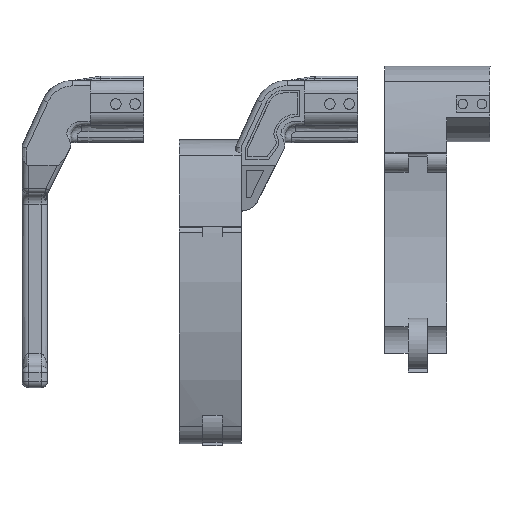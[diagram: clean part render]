
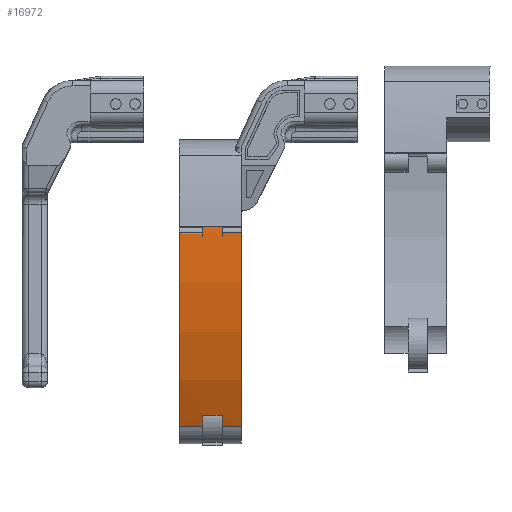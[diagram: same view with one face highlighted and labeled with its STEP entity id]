
A CAD part, top view. The second image highlights one B-rep face of the part: STEP entity #16972.
In plain terms, the highlighted cylindrical face has radius 180.483 mm (diameter 360.965 mm), a partial arc.
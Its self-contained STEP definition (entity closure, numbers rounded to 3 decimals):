
#1328=LINE('',#21114,#2999);
#1330=LINE('',#21120,#3001);
#1331=LINE('',#21124,#3002);
#1332=LINE('',#21128,#3003);
#1333=LINE('',#21129,#3004);
#1334=LINE('',#21131,#3005);
#1335=LINE('',#21135,#3006);
#1336=LINE('',#21139,#3007);
#2999=VECTOR('',#18322,9.);
#3001=VECTOR('',#18328,9.);
#3002=VECTOR('',#18331,9.);
#3003=VECTOR('',#18334,9.);
#3004=VECTOR('',#18335,9.);
#3005=VECTOR('',#18336,9.);
#3006=VECTOR('',#18339,9.);
#3007=VECTOR('',#18342,9.);
#4671=CYLINDRICAL_SURFACE('',#17752,180.483);
#4816=FACE_OUTER_BOUND('',#5540,.T.);
#5540=EDGE_LOOP('',(#11270,#11271,#11272,#11273,#11274,#11275,#11276,#11277,
#11278,#11279,#11280,#11281,#11282,#11283));
#6324=CIRCLE('',#17746,180.483);
#6329=CIRCLE('',#17753,180.483);
#6330=CIRCLE('',#17754,180.483);
#6331=CIRCLE('',#17755,180.483);
#6332=CIRCLE('',#17756,180.483);
#6333=CIRCLE('',#17757,180.483);
#6486=VERTEX_POINT('',#21102);
#6488=VERTEX_POINT('',#21105);
#6491=VERTEX_POINT('',#21113);
#6493=VERTEX_POINT('',#21119);
#6494=VERTEX_POINT('',#21121);
#6495=VERTEX_POINT('',#21123);
#6496=VERTEX_POINT('',#21125);
#6497=VERTEX_POINT('',#21127);
#6498=VERTEX_POINT('',#21130);
#6499=VERTEX_POINT('',#21132);
#6500=VERTEX_POINT('',#21134);
#6501=VERTEX_POINT('',#21136);
#6502=VERTEX_POINT('',#21138);
#8536=EDGE_CURVE('',#6488,#6486,#6324,.T.);
#8540=EDGE_CURVE('',#6491,#6488,#1328,.T.);
#8543=EDGE_CURVE('',#6493,#6486,#1330,.T.);
#8544=EDGE_CURVE('',#6493,#6494,#6329,.T.);
#8545=EDGE_CURVE('',#6495,#6494,#1331,.T.);
#8546=EDGE_CURVE('',#6495,#6496,#6330,.T.);
#8547=EDGE_CURVE('',#6496,#6497,#1332,.T.);
#8548=EDGE_CURVE('',#6496,#6497,#1333,.T.);
#8549=EDGE_CURVE('',#6498,#6496,#1334,.T.);
#8550=EDGE_CURVE('',#6498,#6499,#6331,.T.);
#8551=EDGE_CURVE('',#6499,#6500,#1335,.T.);
#8552=EDGE_CURVE('',#6500,#6501,#6332,.T.);
#8553=EDGE_CURVE('',#6501,#6502,#1336,.T.);
#8554=EDGE_CURVE('',#6502,#6491,#6333,.T.);
#11270=ORIENTED_EDGE('',*,*,#8536,.T.);
#11271=ORIENTED_EDGE('',*,*,#8543,.F.);
#11272=ORIENTED_EDGE('',*,*,#8544,.T.);
#11273=ORIENTED_EDGE('',*,*,#8545,.F.);
#11274=ORIENTED_EDGE('',*,*,#8546,.T.);
#11275=ORIENTED_EDGE('',*,*,#8547,.T.);
#11276=ORIENTED_EDGE('',*,*,#8548,.F.);
#11277=ORIENTED_EDGE('',*,*,#8549,.F.);
#11278=ORIENTED_EDGE('',*,*,#8550,.T.);
#11279=ORIENTED_EDGE('',*,*,#8551,.T.);
#11280=ORIENTED_EDGE('',*,*,#8552,.T.);
#11281=ORIENTED_EDGE('',*,*,#8553,.T.);
#11282=ORIENTED_EDGE('',*,*,#8554,.T.);
#11283=ORIENTED_EDGE('',*,*,#8540,.T.);
#16972=ADVANCED_FACE('',(#4816),#4671,.T.);
#17746=AXIS2_PLACEMENT_3D('',#21106,#18312,#18313);
#17752=AXIS2_PLACEMENT_3D('',#21118,#18326,#18327);
#17753=AXIS2_PLACEMENT_3D('',#21122,#18329,#18330);
#17754=AXIS2_PLACEMENT_3D('',#21126,#18332,#18333);
#17755=AXIS2_PLACEMENT_3D('',#21133,#18337,#18338);
#17756=AXIS2_PLACEMENT_3D('',#21137,#18340,#18341);
#17757=AXIS2_PLACEMENT_3D('',#21140,#18343,#18344);
#18312=DIRECTION('center_axis',(0.,-1.,0.));
#18313=DIRECTION('ref_axis',(-0.953,0.,-0.304));
#18322=DIRECTION('',(0.,1.,0.));
#18326=DIRECTION('center_axis',(0.,1.,0.));
#18327=DIRECTION('ref_axis',(-0.953,0.,-0.304));
#18328=DIRECTION('',(0.,1.,0.));
#18329=DIRECTION('center_axis',(0.,-1.,0.));
#18330=DIRECTION('ref_axis',(-0.953,0.,-0.304));
#18331=DIRECTION('',(0.,1.,0.));
#18332=DIRECTION('center_axis',(0.,1.,0.));
#18333=DIRECTION('ref_axis',(-0.953,0.,-0.304));
#18334=DIRECTION('',(0.,1.,0.));
#18335=DIRECTION('',(0.,1.,0.));
#18336=DIRECTION('',(0.,1.,0.));
#18337=DIRECTION('center_axis',(0.,1.,0.));
#18338=DIRECTION('ref_axis',(-0.953,0.,-0.304));
#18339=DIRECTION('',(0.,1.,0.));
#18340=DIRECTION('center_axis',(0.,-1.,0.));
#18341=DIRECTION('ref_axis',(-0.953,0.,-0.304));
#18342=DIRECTION('',(0.,1.,0.));
#18343=DIRECTION('center_axis',(0.,1.,0.));
#18344=DIRECTION('ref_axis',(-0.953,0.,-0.304));
#21102=CARTESIAN_POINT('',(-10.144,28.394,35.677));
#21105=CARTESIAN_POINT('',(5.58,28.394,126.359));
#21106=CARTESIAN_POINT('Origin',(169.67,28.394,51.202));
#21113=CARTESIAN_POINT('',(5.58,19.5,126.359));
#21114=CARTESIAN_POINT('',(5.58,1.5,126.359));
#21118=CARTESIAN_POINT('Origin',(169.67,1.5,51.202));
#21119=CARTESIAN_POINT('',(-10.144,19.5,35.677));
#21120=CARTESIAN_POINT('',(-10.144,19.5,35.677));
#21121=CARTESIAN_POINT('',(-9.859,19.5,32.677));
#21122=CARTESIAN_POINT('Origin',(169.67,19.5,51.202));
#21123=CARTESIAN_POINT('',(-9.859,10.484,32.677));
#21124=CARTESIAN_POINT('',(-9.859,1.5,32.677));
#21125=CARTESIAN_POINT('',(-10.144,10.484,35.677));
#21126=CARTESIAN_POINT('Origin',(169.67,10.484,51.202));
#21127=CARTESIAN_POINT('',(-10.144,10.5,35.677));
#21128=CARTESIAN_POINT('',(-10.144,19.5,35.677));
#21129=CARTESIAN_POINT('',(-10.144,19.5,35.677));
#21130=CARTESIAN_POINT('',(-10.144,-0.5,35.677));
#21131=CARTESIAN_POINT('',(-10.144,19.5,35.677));
#21132=CARTESIAN_POINT('',(5.58,-0.5,126.359));
#21133=CARTESIAN_POINT('Origin',(169.67,-0.5,51.202));
#21134=CARTESIAN_POINT('',(5.58,10.5,126.359));
#21135=CARTESIAN_POINT('',(5.58,1.5,126.359));
#21136=CARTESIAN_POINT('',(3.155,10.5,120.82));
#21137=CARTESIAN_POINT('Origin',(169.67,10.5,51.202));
#21138=CARTESIAN_POINT('',(3.155,19.5,120.82));
#21139=CARTESIAN_POINT('',(3.155,1.5,120.82));
#21140=CARTESIAN_POINT('Origin',(169.67,19.5,51.202));
